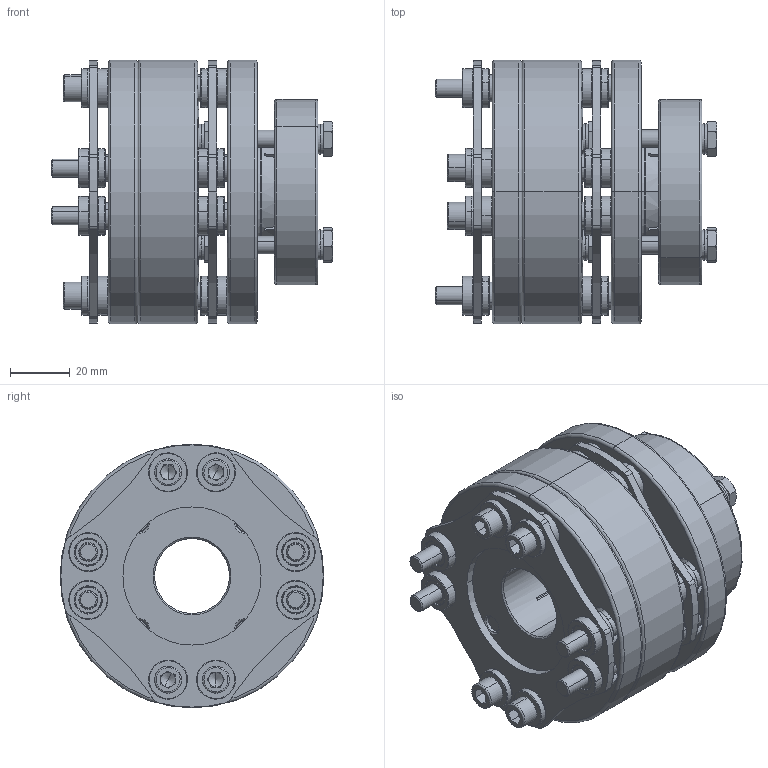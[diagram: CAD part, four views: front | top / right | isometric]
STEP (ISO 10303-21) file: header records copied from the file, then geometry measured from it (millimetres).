
FILE_DESCRIPTION (( 'STEP AP214' ), '1' );
FILE_NAME ('SHDW-88T.STEP', '2009-05-22T00:36:51', ( '歜煽繹' ), ( '' ), 'SwSTEP 2.0', 'SolidWorks 2007', '' );
FILE_SCHEMA (( 'AUTOMOTIVE_DESIGN' ));
Length unit declared in the file: millimetre
Products named in the file (11): Washer; collar-2_ル遽; M6x30_H_H; M6x18; 渠蘆 犒餌sub_ル遽; 醞除っ_ル遽; SHDW-88T; sus-plate1_ル遽; cover_ル遽; body_ル遽; collar-1_ル遽
Assembly tree (38 placements, depth 3):
  SHDW-88T
    渠蘆 犒餌sub_ル遽  x2
      collar-2_ル遽
      collar-1_ル遽
      Washer
      M6x18
      body_ル遽
      M6x30_H_H
      sus-plate1_ル遽
      cover_ル遽
    醞除っ_ル遽
Bounding box: 94.05 x 88 x 88 mm (x, y, z)
Volume: 292339.1 mm3; surface area: 128746.5 mm2
Topology: 71 solids, 71 shells, 1688 faces, 3650 edges, 2128 vertices
Faces by surface type: plane 502, cylinder 458, torus 428, cone 300
Entity records: 10838 total; most frequent: DIRECTION 2039, CARTESIAN_POINT 1846, ORIENTED_EDGE 1618, AXIS2_PLACEMENT_3D 874, EDGE_CURVE 809, CIRCLE 482, VERTEX_POINT 481, EDGE_LOOP 432
